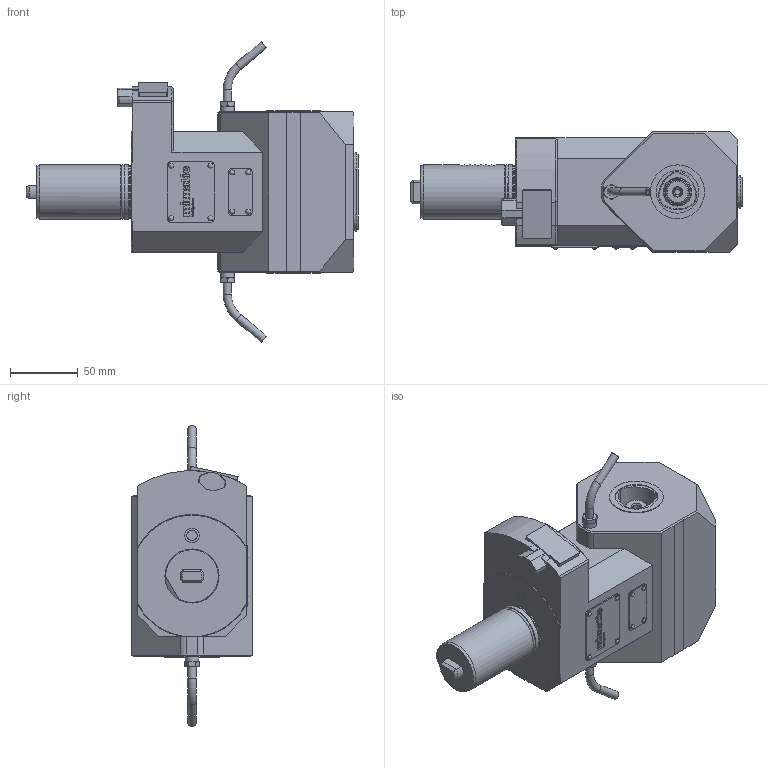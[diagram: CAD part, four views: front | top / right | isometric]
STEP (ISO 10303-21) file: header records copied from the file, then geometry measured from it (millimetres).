
FILE_DESCRIPTION(/* description */ (''),/* implementation_level */ '2;1');
FILE_NAME(/* name */ '202398-UNI',/* time_stamp */ '2024-07-24T07:00:18+02:00',/* author */ (''),/* organization */ (''),/* preprocessor_version */ 'ST-DEVELOPER v16.5',/* originating_system */ 'HiCAD 2017 2201.0 Build 268',/* authorisation */ '');
FILE_SCHEMA (('AUTOMOTIVE_DESIGN { 1 0 10303 214 1 1 1 1 }'));
Products named in the file (2): Root; Teil
Assembly tree (1 placements, depth 2):
  Root
    Teil
Bounding box: 245.7 x 89 x 222.33 mm (x, y, z)
Volume: 1545984.4 mm3; surface area: 109838.4 mm2
Topology: 17 solids, 26 shells, 1194 faces, 3004 edges, 1966 vertices
Faces by surface type: plane 670, cylinder 169, bspline 157, cone 110, torus 80, sphere 8
Full cylindrical faces by diameter (mm): 2 x8, 2.2 x8, 4 x4, 6 x4, 7.65 x1, 10 x2, 11.01 x1, 15 x2, 16.1 x2, 17.8 x2, 18 x2, 19 x2, 19.6 x2, 21 x2, 31.6 x2, 36.5 x2, 39.6 x1, 40 x4
Entity records: 74336 total; most frequent: CARTESIAN_POINT 18886, PRESENTATION_STYLE_ASSIGNMENT 5823, DRAUGHTING_PRE_DEFINED_CURVE_FONT 5806, CURVE_STYLE 5806, OVER_RIDING_STYLED_ITEM 5806, ORIENTED_EDGE 5806, COLOUR_RGB 5760, DIRECTION 5130
